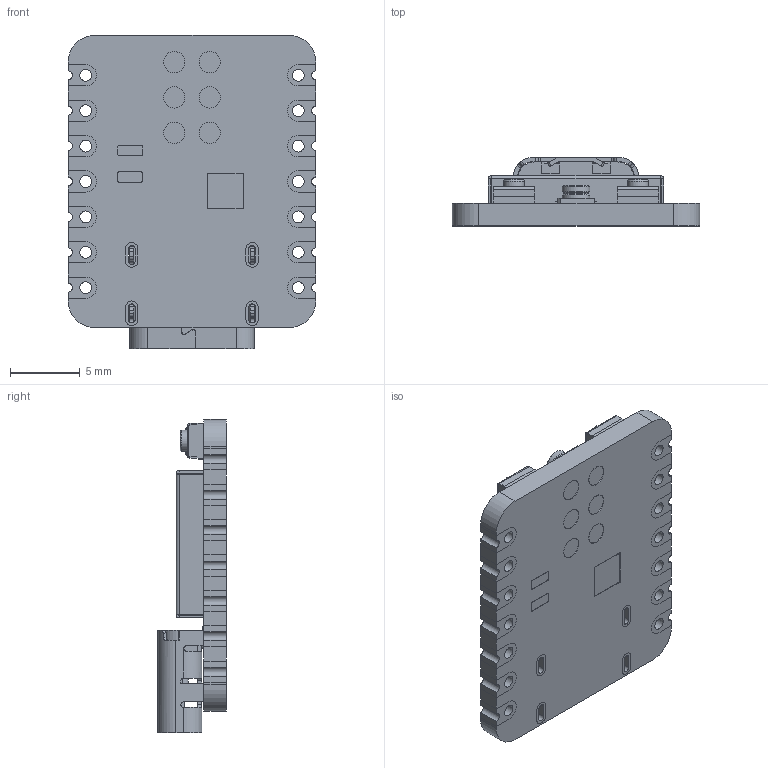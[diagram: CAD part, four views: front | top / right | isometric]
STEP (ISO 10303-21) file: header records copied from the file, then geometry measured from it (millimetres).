
FILE_DESCRIPTION (( 'STEP AP214' ), '1' );
FILE_NAME ('113991054.STEP', '2026-10-20T06:45:59', ( '' ), ( '' ), 'SwSTEP 2.0', 'SolidWorks 2021', '' );
FILE_SCHEMA (( 'AUTOMOTIVE_DESIGN' ));
Length unit declared in the file: millimetre
Products named in the file (1): 113991054
Bounding box: 17.78 x 4.91 x 22.46 mm (x, y, z)
Volume: 752.6 mm3; surface area: 2299.4 mm2
Topology: 56 solids, 56 shells, 985 faces, 2542 edges, 1670 vertices
Faces by surface type: plane 678, cylinder 283, cone 13, bspline 8, torus 2, sphere 1
Full cylindrical faces by diameter (mm): 0.5 x3, 0.85 x14, 1.5 x2, 1.524 x12, 1.65 x1, 1.85 x1, 2 x2
Entity records: 31045 total; most frequent: CARTESIAN_POINT 6032, ORIENTED_EDGE 4990, DIRECTION 4910, EDGE_CURVE 2495, VECTOR 1852, LINE 1852, VERTEX_POINT 1667, AXIS2_PLACEMENT_3D 1529
